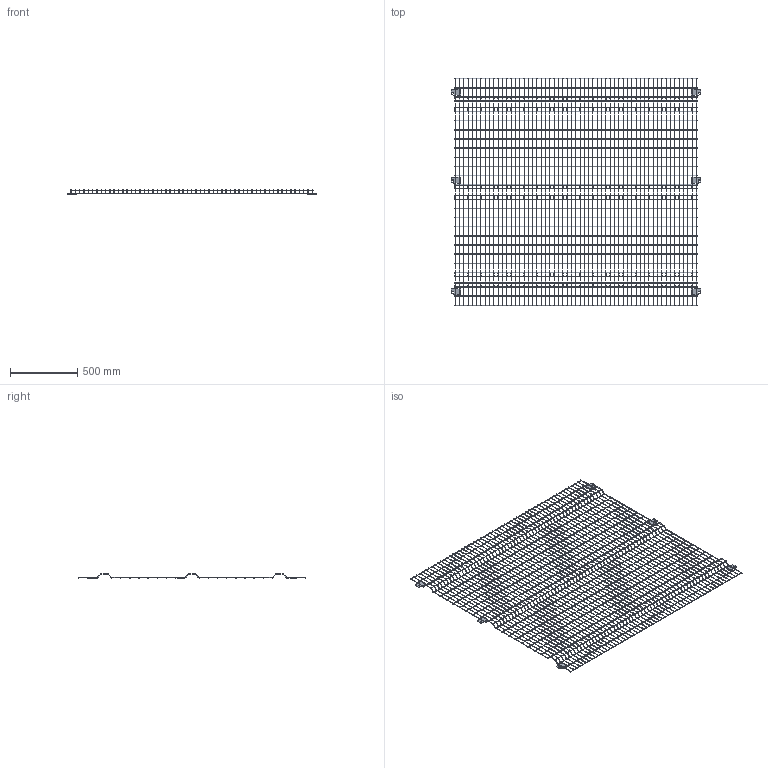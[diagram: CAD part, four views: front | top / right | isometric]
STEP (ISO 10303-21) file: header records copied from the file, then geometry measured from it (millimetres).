
FILE_DESCRIPTION (( 'STEP AP203' ), '1' );
FILE_NAME ('Frameless Panel 1800 x 1688.STEP', '2023-09-15T16:47:54', ( '' ), ( '' ), 'SwSTEP 2.0', 'SolidWorks 2023', '' );
FILE_SCHEMA (( 'CONFIG_CONTROL_DESIGN' ));
Length unit declared in the file: millimetre
Products named in the file (1): Frameless Panel 1800 x 1688
Bounding box: 1856 x 1688 x 31.95 mm (x, y, z)
Volume: 1993617.4 mm3; surface area: 1975489.3 mm2
Topology: 93 solids, 93 shells, 3180 faces, 6246 edges, 3252 vertices
Faces by surface type: cylinder 1584, torus 1368, plane 228
Entity records: 80471 total; most frequent: DIRECTION 17144, CARTESIAN_POINT 12679, ORIENTED_EDGE 12492, AXIS2_PLACEMENT_3D 7717, EDGE_CURVE 6246, CIRCLE 4536, VERTEX_POINT 3252, FACE_OUTER_BOUND 3180
